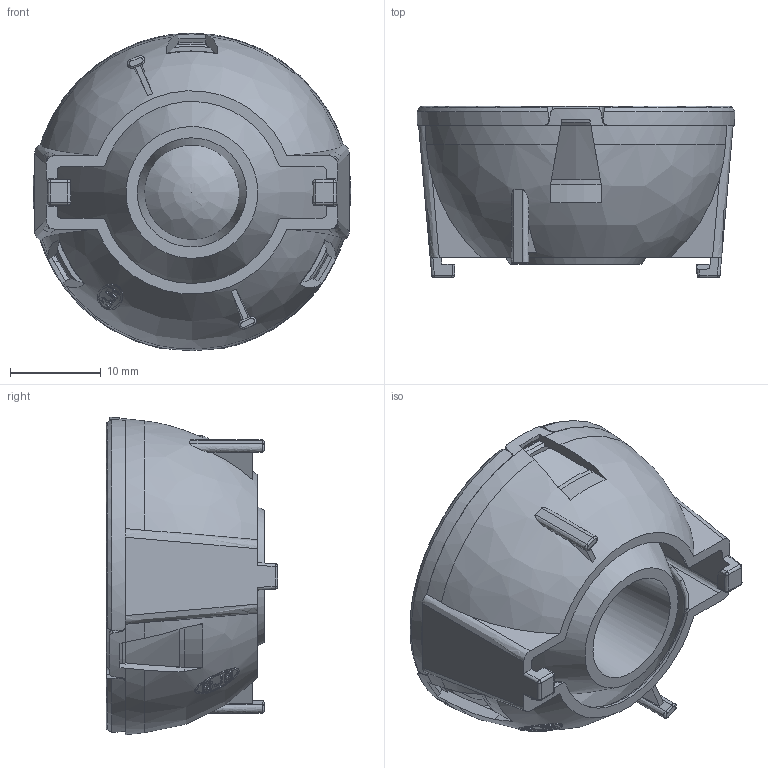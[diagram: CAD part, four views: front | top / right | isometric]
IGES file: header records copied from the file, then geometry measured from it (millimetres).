
Start section: C
Global section: file name: 024-F01-05.igs; native system: By Siemens PLM Incorporated; preprocessor: XPlus GENERIC/IGES 23.0.61; author: Author; organization: Title; date: 20250415.142344; units: millimetre
Bounding box: 34.96 x 18.85 x 34.9 mm (x, y, z)
Volume: 8832.5 mm3; surface area: 6518.5 mm2
Topology: 2 solids, 2 shells, 409 faces, 1110 edges, 699 vertices
Faces by surface type: bspline 409
